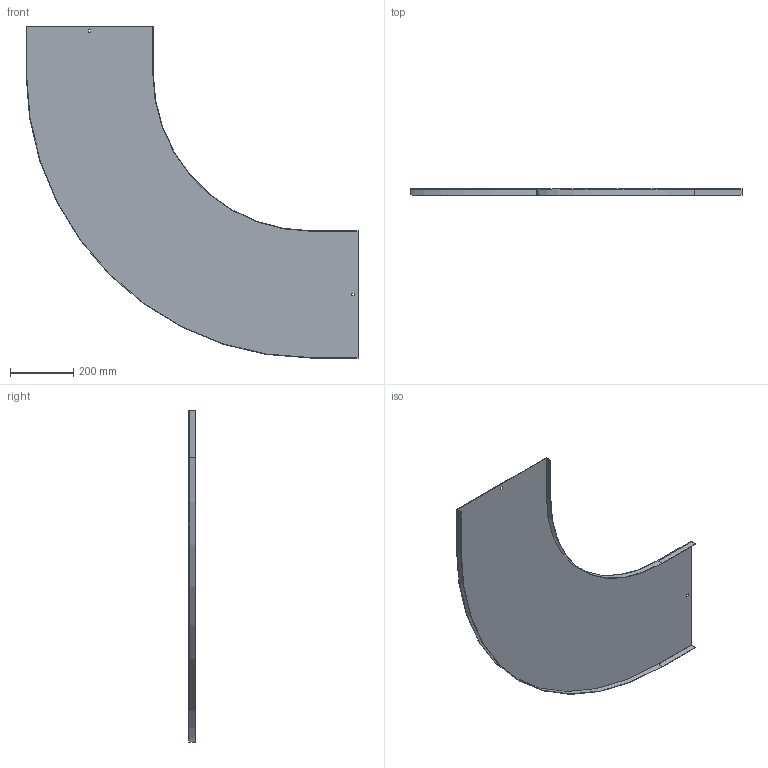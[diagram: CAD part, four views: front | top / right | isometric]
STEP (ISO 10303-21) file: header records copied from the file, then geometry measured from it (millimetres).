
FILE_DESCRIPTION (( 'STEP AP214' ), '1' );
FILE_NAME ('10N5R400.step', '2025-02-21T14:27:40', ( '' ), ( '' ), 'SwSTEP 2.0', 'SolidWorks 2023', '' );
FILE_SCHEMA (( 'AUTOMOTIVE_DESIGN' ));
Length unit declared in the file: millimetre
Products named in the file (1): 10N5R400
Bounding box: 1051.5 x 20 x 1051.5 mm (x, y, z)
Volume: 923532.4 mm3; surface area: 1236988.2 mm2
Topology: 1 solids, 1 shells, 26 faces, 72 edges, 48 vertices
Faces by surface type: plane 22, cylinder 4
Entity records: 855 total; most frequent: CARTESIAN_POINT 147, ORIENTED_EDGE 144, DIRECTION 134, EDGE_CURVE 72, LINE 64, VECTOR 64, VERTEX_POINT 48, AXIS2_PLACEMENT_3D 35
